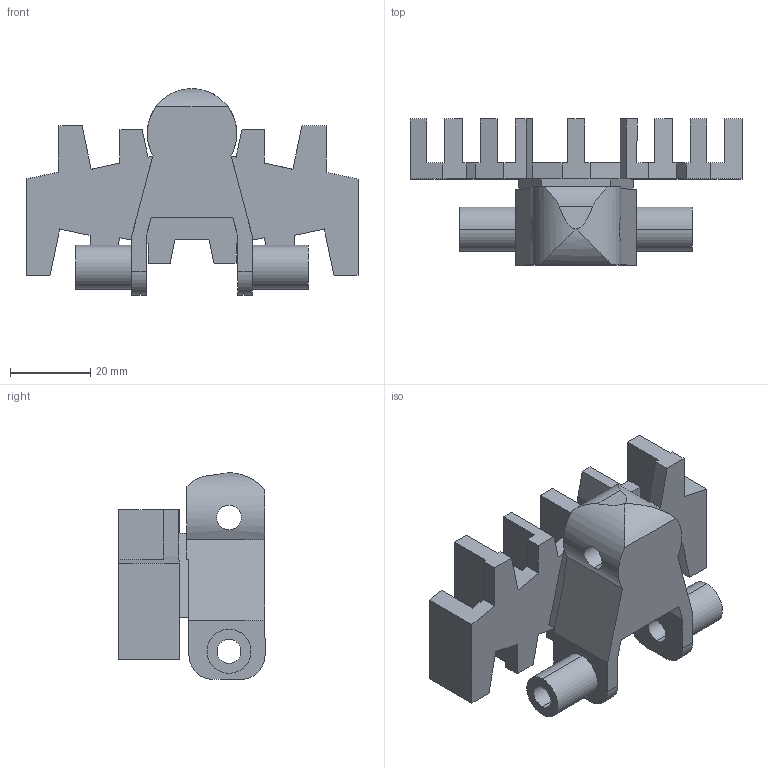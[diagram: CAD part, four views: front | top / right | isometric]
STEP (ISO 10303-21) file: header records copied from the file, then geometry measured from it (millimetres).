
FILE_DESCRIPTION (( 'STEP AP214' ), '1' );
FILE_NAME ('FMRB 5D.step', '2017-04-04T13:35:01', ( '' ), ( '' ), 'SwSTEP 2.0', 'SolidWorks 2015', '' );
FILE_SCHEMA (( 'AUTOMOTIVE_DESIGN' ));
Length unit declared in the file: millimetre
Products named in the file (1): FMRB 5D
Bounding box: 83 x 36.5 x 51.65 mm (x, y, z)
Volume: 36358.3 mm3; surface area: 18675.6 mm2
Topology: 1 solids, 1 shells, 130 faces, 367 edges, 241 vertices
Faces by surface type: plane 112, cylinder 18
Entity records: 4315 total; most frequent: CARTESIAN_POINT 901, ORIENTED_EDGE 734, DIRECTION 647, EDGE_CURVE 367, VECTOR 329, LINE 329, VERTEX_POINT 241, AXIS2_PLACEMENT_3D 159
